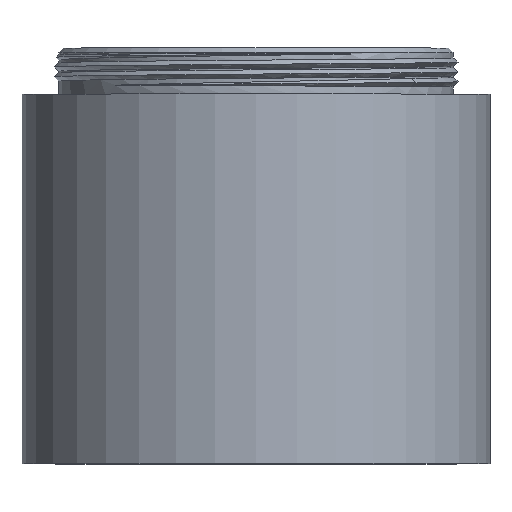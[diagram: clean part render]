
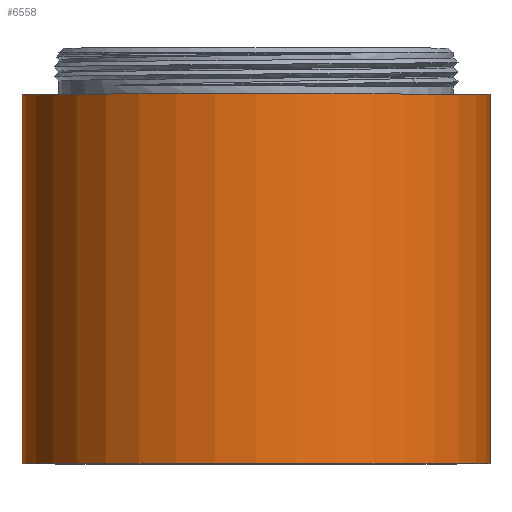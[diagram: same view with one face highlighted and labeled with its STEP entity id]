
A CAD part, top view. The second image highlights one B-rep face of the part: STEP entity #6558.
In plain terms, the highlighted cylindrical face has radius 15.2 mm (diameter 30.4 mm), a partial arc.
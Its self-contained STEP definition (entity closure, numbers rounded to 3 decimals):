
#6=CARTESIAN_POINT('',(0.,0.,0.));
#7=DIRECTION('',(0.,1.,0.));
#8=DIRECTION('',(-1.,0.,0.));
#9=AXIS2_PLACEMENT_3D('',#6,#7,#8);
#59=DIRECTION('',(0.,1.,0.));
#60=VECTOR('',#59,24.);
#61=CARTESIAN_POINT('',(15.2,0.,0.));
#62=LINE('',#61,#60);
#63=DIRECTION('',(0.,1.,0.));
#64=VECTOR('',#63,24.);
#65=CARTESIAN_POINT('',(-15.2,0.,0.));
#66=LINE('',#65,#64);
#72=CARTESIAN_POINT('',(0.,24.,0.));
#73=DIRECTION('',(0.,1.,0.));
#74=DIRECTION('',(-1.,0.,0.));
#75=AXIS2_PLACEMENT_3D('',#72,#73,#74);
#6217=CARTESIAN_POINT('',(15.2,0.,0.));
#6218=CARTESIAN_POINT('',(-15.2,0.,0.));
#6219=VERTEX_POINT('',#6217);
#6220=VERTEX_POINT('',#6218);
#6221=CARTESIAN_POINT('',(15.2,24.,0.));
#6222=CARTESIAN_POINT('',(-15.2,24.,0.));
#6223=VERTEX_POINT('',#6221);
#6224=VERTEX_POINT('',#6222);
#6546=CARTESIAN_POINT('',(0.,0.,0.));
#6547=DIRECTION('',(0.,1.,0.));
#6548=DIRECTION('',(1.,0.,0.));
#6549=AXIS2_PLACEMENT_3D('',#6546,#6547,#6548);
#6550=CYLINDRICAL_SURFACE('',#6549,15.2);
#6551=ORIENTED_EDGE('',*,*,#6518,.F.);
#6552=ORIENTED_EDGE('',*,*,#6541,.T.);
#6554=ORIENTED_EDGE('',*,*,#6553,.T.);
#6555=ORIENTED_EDGE('',*,*,#6537,.F.);
#6556=EDGE_LOOP('',(#6551,#6552,#6554,#6555));
#6557=FACE_OUTER_BOUND('',#6556,.F.);
#6558=ADVANCED_FACE('',(#6557),#6550,.T.);
#10=CIRCLE('',#9,15.2);
#76=CIRCLE('',#75,15.2);
#6518=EDGE_CURVE('',#6220,#6219,#10,.T.);
#6537=EDGE_CURVE('',#6219,#6223,#62,.T.);
#6541=EDGE_CURVE('',#6220,#6224,#66,.T.);
#6553=EDGE_CURVE('',#6224,#6223,#76,.T.);
